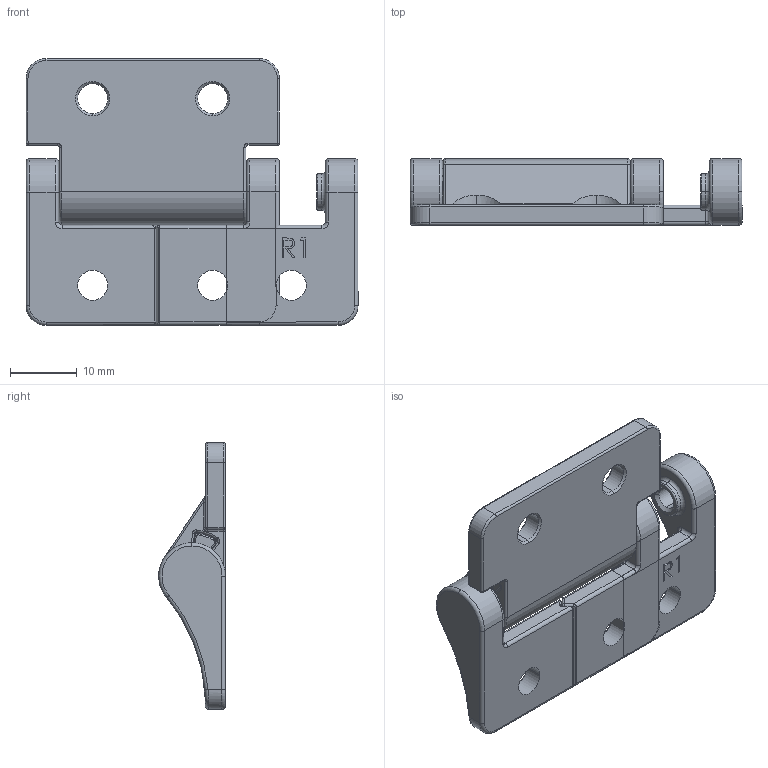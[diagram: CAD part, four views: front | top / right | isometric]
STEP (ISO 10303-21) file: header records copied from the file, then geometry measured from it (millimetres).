
FILE_DESCRIPTION (( 'STEP AP203' ), '1' );
FILE_NAME ('CL153-4-2.STEP', '2019-11-19T00:00:23', ( '' ), ( '' ), 'SwSTEP 2.0', 'SolidWorks 2018', '' );
FILE_SCHEMA (( 'CONFIG_CONTROL_DESIGN' ));
Length unit declared in the file: millimetre
Products named in the file (9): 隅弇輸; CL153-4-2; O型圈; 蛌粣种赽; 雄蝓蟈2; 郯攝杶; 粟俶种赽; 雄蝓蟈; 隅蝓蟈
Assembly tree (23 placements, depth 2):
  CL153-4-2
    隅蝓蟈
    蛌粣种赽
    郯攝杶  x14
    隅弇輸  x2
    O型圈  x2
    雄蝓蟈
    雄蝓蟈2
    粟俶种赽
Bounding box: 49.8 x 10 x 40 mm (x, y, z)
Volume: 7774.6 mm3; surface area: 8944.5 mm2
Topology: 24 solids, 24 shells, 1047 faces, 2610 edges, 1602 vertices
Faces by surface type: cylinder 433, plane 398, torus 133, bspline 40, cone 24, sphere 19
Entity records: 22807 total; most frequent: CARTESIAN_POINT 5531, DIRECTION 3495, ORIENTED_EDGE 3280, EDGE_CURVE 1640, AXIS2_PLACEMENT_3D 1378, VERTEX_POINT 974, VECTOR 739, LINE 739
